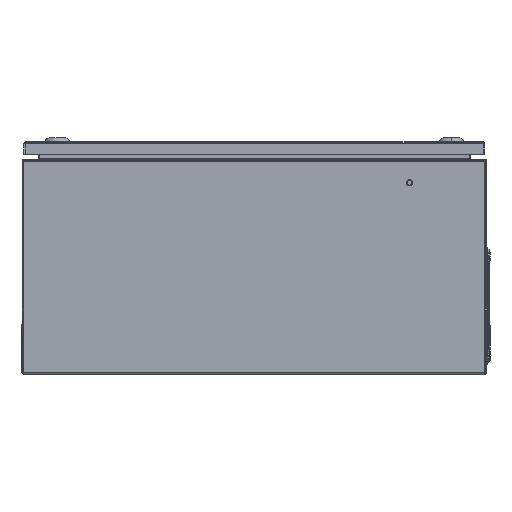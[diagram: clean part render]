
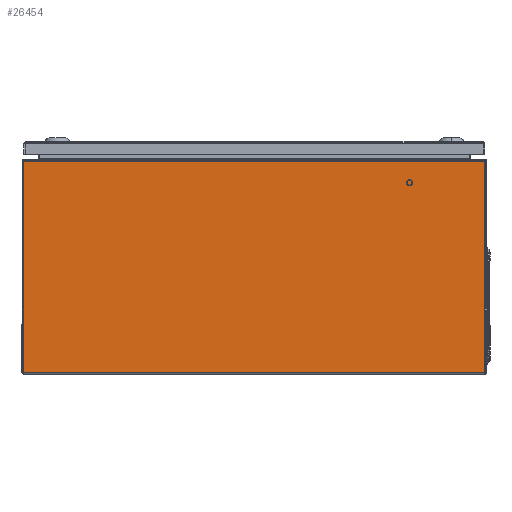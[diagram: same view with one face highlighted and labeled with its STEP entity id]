
A CAD part, left-side view. The second image highlights one B-rep face of the part: STEP entity #26454.
In plain terms, the highlighted planar face has unit normal (-1, 0, 0).
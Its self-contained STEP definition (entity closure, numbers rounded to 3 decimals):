
#68 = CARTESIAN_POINT ( 'NONE',  ( -400., 300., 274.5 ) ) ;
#550 = EDGE_CURVE ( 'NONE', #23170, #1670, #709, .T. ) ;
#709 = LINE ( 'NONE', #20615, #13784 ) ;
#1670 = VERTEX_POINT ( 'NONE', #25102 ) ;
#1727 = PLANE ( 'NONE',  #30693 ) ;
#2548 = DIRECTION ( 'NONE',  ( 0., -1., 0. ) ) ;
#5966 = ORIENTED_EDGE ( 'NONE', *, *, #17774, .T. ) ;
#9871 = DIRECTION ( 'NONE',  ( 0., -1., 0. ) ) ;
#10752 = DIRECTION ( 'NONE',  ( 0., 0., -1. ) ) ;
#12054 = CARTESIAN_POINT ( 'NONE',  ( -400., -297.5, 2.35 ) ) ;
#13068 = ORIENTED_EDGE ( 'NONE', *, *, #24929, .T. ) ;
#13348 = DIRECTION ( 'NONE',  ( 0., 0., 1. ) ) ;
#13784 = VECTOR ( 'NONE', #10752, 1000. ) ;
#14553 = CARTESIAN_POINT ( 'NONE',  ( -400., -300., 1.5 ) ) ;
#15145 = ORIENTED_EDGE ( 'NONE', *, *, #550, .T. ) ;
#16477 = CARTESIAN_POINT ( 'NONE',  ( -400., -297.5, 1.5 ) ) ;
#17193 = FACE_OUTER_BOUND ( 'NONE', #19866, .T. ) ;
#17774 = EDGE_CURVE ( 'NONE', #24441, #22000, #21409, .T. ) ;
#18558 = VECTOR ( 'NONE', #9871, 1000. ) ;
#19866 = EDGE_LOOP ( 'NONE', ( #15145, #13068, #5966, #23434 ) ) ;
#20207 = EDGE_CURVE ( 'NONE', #23170, #22000, #25119, .T. ) ;
#20615 = CARTESIAN_POINT ( 'NONE',  ( -400., 297.5, 1.5 ) ) ;
#20965 = VECTOR ( 'NONE', #2548, 1000. ) ;
#21409 = LINE ( 'NONE', #16477, #21783 ) ;
#21783 = VECTOR ( 'NONE', #13348, 1000. ) ;
#22000 = VERTEX_POINT ( 'NONE', #30474 ) ;
#22298 = DIRECTION ( 'NONE',  ( 0., 0., -1. ) ) ;
#22396 = CARTESIAN_POINT ( 'NONE',  ( -400., -300., 2.35 ) ) ;
#23170 = VERTEX_POINT ( 'NONE', #31871 ) ;
#23434 = ORIENTED_EDGE ( 'NONE', *, *, #20207, .F. ) ;
#24441 = VERTEX_POINT ( 'NONE', #12054 ) ;
#24929 = EDGE_CURVE ( 'NONE', #1670, #24441, #27854, .T. ) ;
#25102 = CARTESIAN_POINT ( 'NONE',  ( -400., 297.5, 2.35 ) ) ;
#25119 = LINE ( 'NONE', #68, #20965 ) ;
#26454 = ADVANCED_FACE ( 'NONE', ( #17193 ), #1727, .F. ) ;
#27418 = DIRECTION ( 'NONE',  ( 1., 0., 0. ) ) ;
#27854 = LINE ( 'NONE', #22396, #18558 ) ;
#30474 = CARTESIAN_POINT ( 'NONE',  ( -400., -297.5, 274.5 ) ) ;
#30693 = AXIS2_PLACEMENT_3D ( 'NONE', #14553, #27418, #22298 ) ;
#31871 = CARTESIAN_POINT ( 'NONE',  ( -400., 297.5, 274.5 ) ) ;
